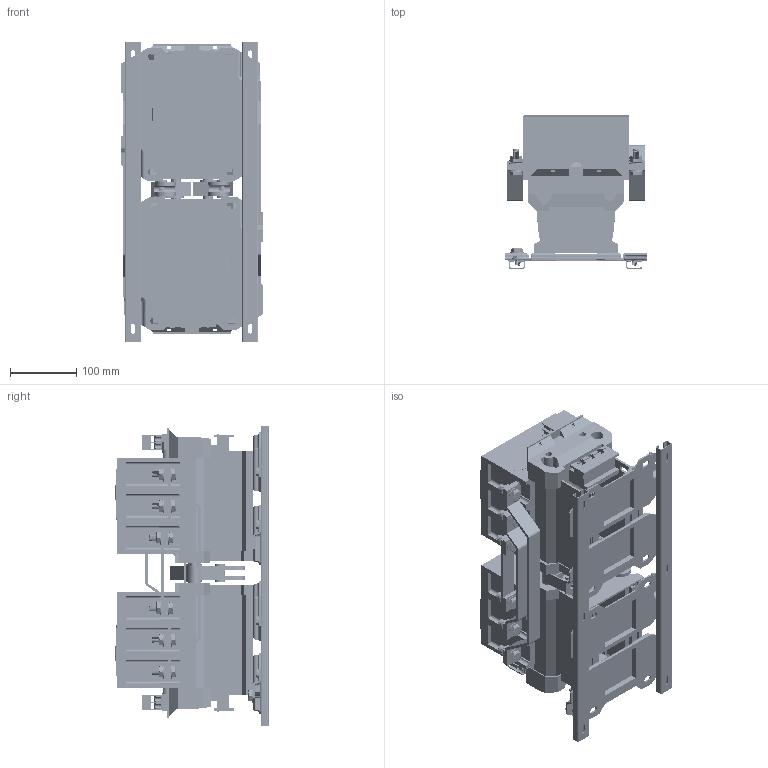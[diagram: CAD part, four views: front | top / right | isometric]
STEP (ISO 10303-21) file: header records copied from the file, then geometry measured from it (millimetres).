
FILE_DESCRIPTION (( 'STEP AP203' ), '1' );
FILE_NAME ('ﾏﾌﾋ-8500.STEP', '2024-02-21T11:17:00', ( '' ), ( '' ), 'SwSTEP 2.0', 'SolidWorks 2018', '' );
FILE_SCHEMA (( 'CONFIG_CONTROL_DESIGN' ));
Length unit declared in the file: millimetre
Products named in the file (12): 麠縺3; 搿錓1; 麠縺2; 1; 麠縺4; ﾐ飼璢 (1); àêñ; ðåéêà; 麠縺1; ﾏﾌﾋ-8500; 搿錓2; 搿錓
Assembly tree (35 placements, depth 2):
  ﾏﾌﾋ-8500
    ðåéêà  x2
    1  x2
    麠縺1  x2
    麠縺2  x2
    麠縺3
    麠縺4
    搿錓  x12
    àêñ  x2
    搿錓1
    搿錓2  x8
    ﾐ飼璢 (1)  x2
Bounding box: 212.3 x 230.62 x 450 mm (x, y, z)
Volume: 6609932.5 mm3; surface area: 1354311 mm2
Topology: 63 solids, 65 shells, 3820 faces, 9950 edges, 6385 vertices
Faces by surface type: plane 2177, cylinder 1288, cone 187, bspline 132, torus 20, sphere 16
Entity records: 54889 total; most frequent: CARTESIAN_POINT 18786, ORIENTED_EDGE 7316, DIRECTION 6738, EDGE_CURVE 3658, LINE 2768, VECTOR 2768, VERTEX_POINT 2353, AXIS2_PLACEMENT_3D 1985
